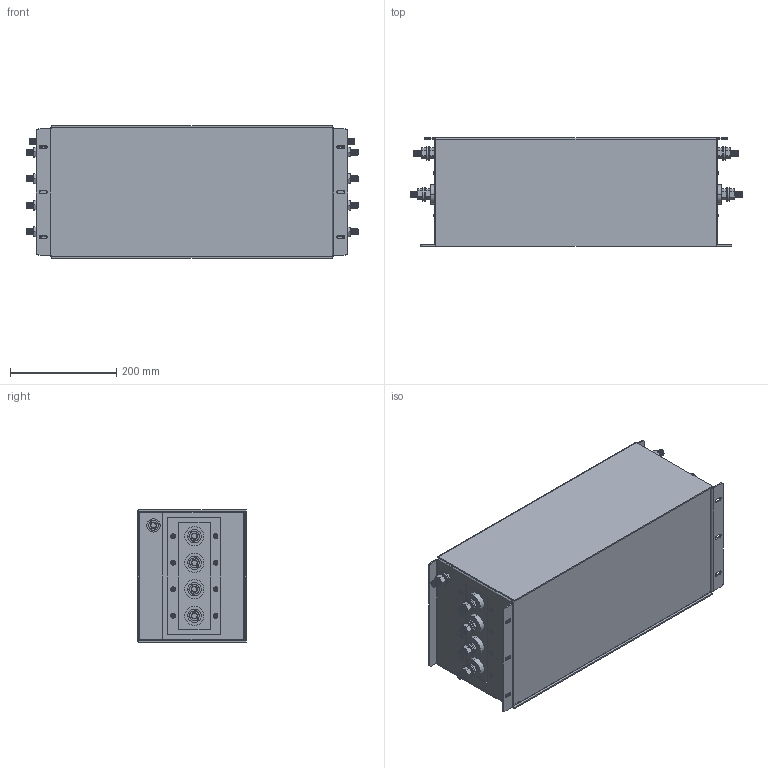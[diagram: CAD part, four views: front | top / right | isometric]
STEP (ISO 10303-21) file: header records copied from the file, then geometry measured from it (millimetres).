
FILE_DESCRIPTION (( 'STEP AP203' ), '1' );
FILE_NAME ('NF-4-280.STEP', '2022-05-18T08:27:37', ( '' ), ( '' ), 'SwSTEP 2.0', 'SolidWorks 2017', '' );
FILE_SCHEMA (( 'CONFIG_CONTROL_DESIGN' ));
Length unit declared in the file: millimetre
Products named in the file (12): M12x30 Earth post; hex screw_am_B18.6.7M - M12 x 1.75 x 30 Indented HHMS --30S; tufnol M12x4; Body; m12 INSULATOR; end 1; hex nut style 1_am_B18.2.4.1M - Hex nut, Style 1,  M12 x 1.75 --D-N; NF-4-280; end 2; 5mm Rivet; Lid; flat washer narrow_am_B18.22M - Plain washer, 12 mm, narrow
Assembly tree (44 placements, depth 3):
  NF-4-280
    Body
    end 1
    end 2
    tufnol M12x4  x2
    M12x30 Earth post  x10
      flat washer narrow_am_B18.22M - Plain washer, 12 mm, narrow
      hex nut style 1_am_B18.2.4.1M - Hex nut, Style 1,  M12 x 1.75 --D-N
      hex screw_am_B18.6.7M - M12 x 1.75 x 30 Indented HHMS --30S
    5mm Rivet  x16
    m12 INSULATOR  x8
    Lid
Bounding box: 626 x 205 x 250 mm (x, y, z)
Volume: 1903231.2 mm3; surface area: 1429311.6 mm2
Topology: 70 solids, 70 shells, 2158 faces, 5206 edges, 3224 vertices
Faces by surface type: cone 952, cylinder 738, plane 436, torus 32
Entity records: 15674 total; most frequent: DIRECTION 2504, CARTESIAN_POINT 2455, ORIENTED_EDGE 2180, EDGE_CURVE 1090, AXIS2_PLACEMENT_3D 963, VERTEX_POINT 674, LINE 578, VECTOR 578
